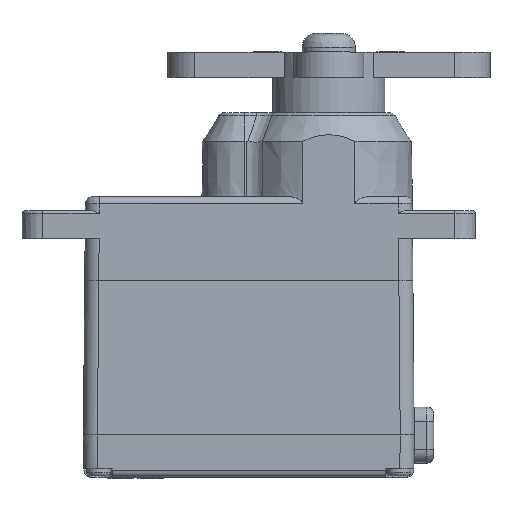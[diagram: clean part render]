
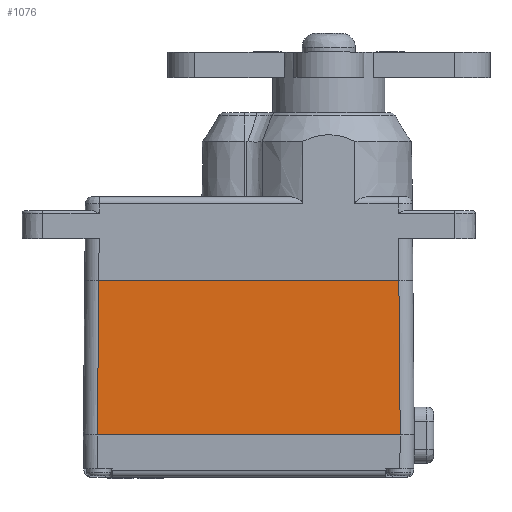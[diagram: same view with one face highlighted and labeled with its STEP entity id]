
A CAD part, top view. The second image highlights one B-rep face of the part: STEP entity #1076.
In plain terms, the highlighted planar face has unit normal (0, 0.009, 1).
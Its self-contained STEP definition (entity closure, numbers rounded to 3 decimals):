
#208=CARTESIAN_POINT('',(-10.796,-11.,5.796));
#219=DIRECTION('',(1.,0.,0.));
#220=VECTOR('',#219,21.592);
#221=CARTESIAN_POINT('',(-10.796,-11.,5.796));
#222=LINE('',#221,#220);
#232=CARTESIAN_POINT('',(10.796,-11.,5.796));
#339=DIRECTION('',(0.009,-1.,0.009));
#340=VECTOR('',#339,11.001);
#341=CARTESIAN_POINT('',(10.7,0.,5.7));
#342=LINE('',#341,#340);
#346=DIRECTION('',(-0.009,-1.,0.009));
#347=VECTOR('',#346,11.001);
#348=CARTESIAN_POINT('',(-10.7,0.,5.7));
#349=LINE('',#348,#347);
#410=DIRECTION('',(1.,0.,0.));
#411=VECTOR('',#410,21.4);
#412=CARTESIAN_POINT('',(-10.7,0.,5.7));
#413=LINE('',#412,#411);
#423=CARTESIAN_POINT('',(-10.7,0.,5.7));
#794=VERTEX_POINT('',#232);
#795=CARTESIAN_POINT('',(10.7,0.,5.7));
#796=VERTEX_POINT('',#795);
#798=VERTEX_POINT('',#208);
#802=VERTEX_POINT('',#423);
#1063=CARTESIAN_POINT('',(-13.076,0.,5.7));
#1064=DIRECTION('',(0.,0.009,1.));
#1065=DIRECTION('',(1.,0.,0.));
#1066=AXIS2_PLACEMENT_3D('',#1063,#1064,#1065);
#1067=PLANE('',#1066);
#1068=ORIENTED_EDGE('',*,*,#1048,.T.);
#1069=ORIENTED_EDGE('',*,*,#911,.F.);
#1071=ORIENTED_EDGE('',*,*,#1070,.F.);
#1073=ORIENTED_EDGE('',*,*,#1072,.T.);
#1074=EDGE_LOOP('',(#1068,#1069,#1071,#1073));
#1075=FACE_OUTER_BOUND('',#1074,.F.);
#1076=ADVANCED_FACE('',(#1075),#1067,.T.);
#911=EDGE_CURVE('',#798,#794,#222,.T.);
#1048=EDGE_CURVE('',#796,#794,#342,.T.);
#1070=EDGE_CURVE('',#802,#798,#349,.T.);
#1072=EDGE_CURVE('',#802,#796,#413,.T.);
